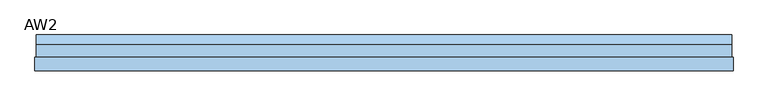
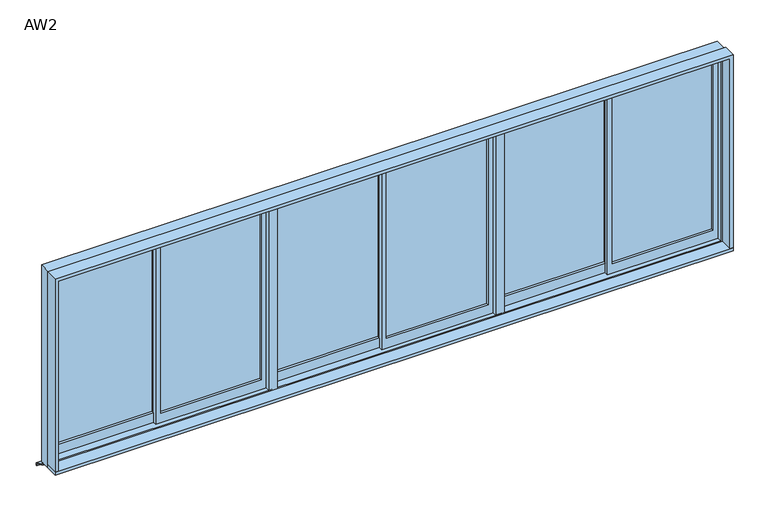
"""IFC4 building model written with IfcOpenShell, lengths in millimetres: window geometry, 営_連窓_引違い3 : AW2."""

from ifc_helpers import new_model, si_unit, frame, origin, place, context, project, spatial, polyline, outline, extrude, source, transform, mapped, element, save


def aw2_52e0dac3(model_context):
    return source(origin(), model_context, "Body", "SweptSolid", [
        extrude(outline(polyline([(2632.5, -20.0), (1827.5, -20.0), (1827.5, -15.0), (2632.5, -15.0), (2632.5, -20.0)])), frame((0.0, 0.0, 1180.0), z_axis=(0.0, 0.0, 1.0), x_axis=(1.0, 0.0, 0.0)), (0.0, 0.0, 1.0), 1465.0),
        extrude(outline(polyline([(1787.5, 10.0), (982.5, 10.0), (982.5, 15.0), (1787.5, 15.0), (1787.5, 10.0)])), frame((0.0, 0.0, 1180.0), z_axis=(0.0, 0.0, 1.0), x_axis=(1.0, 0.0, 0.0)), (0.0, 0.0, 1.0), 1465.0),
        extrude(outline(polyline([(1100.0, 2672.5), (2685.0, 2672.5), (2685.0, 1787.5), (1100.0, 1787.5), (1100.0, 2672.5)]), holes=[polyline([(1180.0, 2632.5), (1180.0, 1827.5), (2645.0, 1827.5), (2645.0, 2632.5), (1180.0, 2632.5)])]), frame((0.0, -40.0, 0.0), z_axis=(0.0, 1.0, 0.0), x_axis=(0.0, 0.0, 1.0)), (0.0, 0.0, 1.0), 30.0),
        extrude(outline(polyline([(1100.0, 1827.5), (2685.0, 1827.5), (2685.0, 942.5), (1100.0, 942.5), (1100.0, 1827.5)]), holes=[polyline([(1180.0, 1787.5), (1180.0, 982.5), (2645.0, 982.5), (2645.0, 1787.5), (1180.0, 1787.5)])]), frame((0.0, -10.0, 0.0), z_axis=(0.0, 1.0, 0.0), x_axis=(0.0, 0.0, 1.0)), (0.0, 0.0, 1.0), 30.0),
        extrude(outline(polyline([(832.5, -20.0), (20.0, -20.0), (20.0, -15.0), (832.5, -15.0), (832.5, -20.0)])), frame((0.0, 0.0, 1180.0), z_axis=(0.0, 0.0, 1.0), x_axis=(1.0, 0.0, 0.0)), (0.0, 0.0, 1.0), 1465.0),
        extrude(outline(polyline([(-20.0, 10.0), (-832.5, 10.0), (-832.5, 15.0), (-20.0, 15.0), (-20.0, 10.0)])), frame((0.0, 0.0, 1180.0), z_axis=(0.0, 0.0, 1.0), x_axis=(1.0, 0.0, 0.0)), (0.0, 0.0, 1.0), 1465.0),
        extrude(outline(polyline([(1100.0, 872.5), (2685.0, 872.5), (2685.0, -20.0), (1100.0, -20.0), (1100.0, 872.5)]), holes=[polyline([(1180.0, 832.5), (1180.0, 20.0), (2645.0, 20.0), (2645.0, 832.5), (1180.0, 832.5)])]), frame((0.0, -40.0, 0.0), z_axis=(0.0, 1.0, 0.0), x_axis=(0.0, 0.0, 1.0)), (0.0, 0.0, 1.0), 30.0),
        extrude(outline(polyline([(1100.0, 20.0), (2685.0, 20.0), (2685.0, -872.5), (1100.0, -872.5), (1100.0, 20.0)]), holes=[polyline([(1180.0, -20.0), (1180.0, -832.5), (2645.0, -832.5), (2645.0, -20.0), (1180.0, -20.0)])]), frame((0.0, -10.0, 0.0), z_axis=(0.0, 1.0, 0.0), x_axis=(0.0, 0.0, 1.0)), (0.0, 0.0, 1.0), 30.0),
        extrude(outline(polyline([(-982.5, -20.0), (-1787.5, -20.0), (-1787.5, -15.0), (-982.5, -15.0), (-982.5, -20.0)])), frame((0.0, 0.0, 1180.0), z_axis=(0.0, 0.0, 1.0), x_axis=(1.0, 0.0, 0.0)), (0.0, 0.0, 1.0), 1465.0),
        extrude(outline(polyline([(-1827.5, 10.0), (-2632.5, 10.0), (-2632.5, 15.0), (-1827.5, 15.0), (-1827.5, 10.0)])), frame((0.0, 0.0, 1180.0), z_axis=(0.0, 0.0, 1.0), x_axis=(1.0, 0.0, 0.0)), (0.0, 0.0, 1.0), 1465.0),
        extrude(outline(polyline([(1100.0, -942.5), (2685.0, -942.5), (2685.0, -1827.5), (1100.0, -1827.5), (1100.0, -942.5)]), holes=[polyline([(1180.0, -982.5), (1180.0, -1787.5), (2645.0, -1787.5), (2645.0, -982.5), (1180.0, -982.5)])]), frame((0.0, -40.0, 0.0), z_axis=(0.0, 1.0, 0.0), x_axis=(0.0, 0.0, 1.0)), (0.0, 0.0, 1.0), 30.0),
        extrude(outline(polyline([(1100.0, -1787.5), (2685.0, -1787.5), (2685.0, -2672.5), (1100.0, -2672.5), (1100.0, -1787.5)]), holes=[polyline([(1180.0, -1827.5), (1180.0, -2632.5), (2645.0, -2632.5), (2645.0, -1827.5), (1180.0, -1827.5)])]), frame((0.0, -10.0, 0.0), z_axis=(0.0, 1.0, 0.0), x_axis=(0.0, 0.0, 1.0)), (0.0, 0.0, 1.0), 30.0),
        extrude(outline(polyline([(-872.5, -75.0), (-942.5, -75.0), (-942.5, 25.0), (-872.5, 25.0), (-872.5, -75.0)])), frame((0.0, 0.0, 1090.0), z_axis=(0.0, 0.0, 1.0), x_axis=(1.0, 0.0, 0.0)), (0.0, 0.0, 1.0), 1595.0),
        extrude(outline(polyline([(942.5, -75.0), (872.5, -75.0), (872.5, 25.0), (942.5, 25.0), (942.5, -75.0)])), frame((0.0, 0.0, 1090.0), z_axis=(0.0, 0.0, 1.0), x_axis=(1.0, 0.0, 0.0)), (0.0, 0.0, 1.0), 1595.0),
        extrude(outline(polyline([(2712.5, -180.0), (-2712.5, -180.0), (-2712.5, -75.0), (2712.5, -75.0), (2712.5, -180.0)])), frame((0.0, 0.0, 1065.0), z_axis=(0.0, 0.0, 1.0), x_axis=(1.0, 0.0, 0.0)), (0.0, 0.0, 1.0), 25.0),
        extrude(outline(polyline([(15.0, 1035.0), (100.0, 995.0), (100.0, 975.0), (95.0014518, 975.0), (95.0014518, 991.8262891), (10.0, 1031.8269723), (10.0, 1050.0), (15.0, 1050.0), (15.0, 1035.0)])), frame((-2702.5, 0.0, 0.0), z_axis=(1.0, 0.0, 0.0), x_axis=(0.0, 1.0, 0.0)), (0.0, 0.0, 1.0), 5405.0),
        extrude(outline(polyline([(1065.0, -2712.5), (1065.0, -2687.5), (2695.0, -2687.5), (2695.0, 2687.5), (1065.0, 2687.5), (1065.0, 2712.5), (2720.0, 2712.5), (2720.0, -2712.5), (1065.0, -2712.5)])), frame((0.0, -180.0, 0.0), z_axis=(0.0, 1.0, 0.0), x_axis=(0.0, 0.0, 1.0)), (0.0, 0.0, 1.0), 105.0),
        extrude(outline(polyline([(1050.0, -2702.5), (1050.0, -2672.5), (2685.0, -2672.5), (2685.0, 2672.5), (1050.0, 2672.5), (1050.0, 2702.5), (2715.0, 2702.5), (2715.0, -2702.5), (1050.0, -2702.5)])), frame((0.0, -75.0, 0.0), z_axis=(0.0, 1.0, 0.0), x_axis=(0.0, 0.0, 1.0)), (0.0, 0.0, 1.0), 100.0),
        extrude(outline(polyline([(-75.0, 1050.0), (-75.0, 1100.0), (25.0, 1090.6666667), (25.0, 1050.0), (-75.0, 1050.0)])), frame((-2672.5, 0.0, 0.0), z_axis=(1.0, 0.0, 0.0), x_axis=(0.0, 1.0, 0.0)), (0.0, 0.0, 1.0), 5345.0),
    ])


if __name__ == "__main__":
    model = new_model("IFC4")
    model_context = context("Model", 3, world=origin())
    ifc_project = project(units=[si_unit("LENGTHUNIT", "METRE", prefix="MILLI")], contexts=[model_context])
    site = spatial("IfcSite", under=ifc_project)
    building = spatial("IfcBuilding", under=site)
    placement = place(None, origin())
    aw2_shape = aw2_52e0dac3(model_context)
    element("IfcWindow", 1, ObjectType="営_連窓_引違い3 : AW2", at=placement, inside=building, context=model_context, shape_type="MappedRepresentation", body=[
        mapped(aw2_shape, transform((0.0, 0.0, 0.0), x_axis=(1.0, 0.0, 0.0), y_axis=(0.0, 1.0, 0.0), z_axis=(0.0, 0.0, 1.0))),
    ])
    save(model, "model.ifc")
